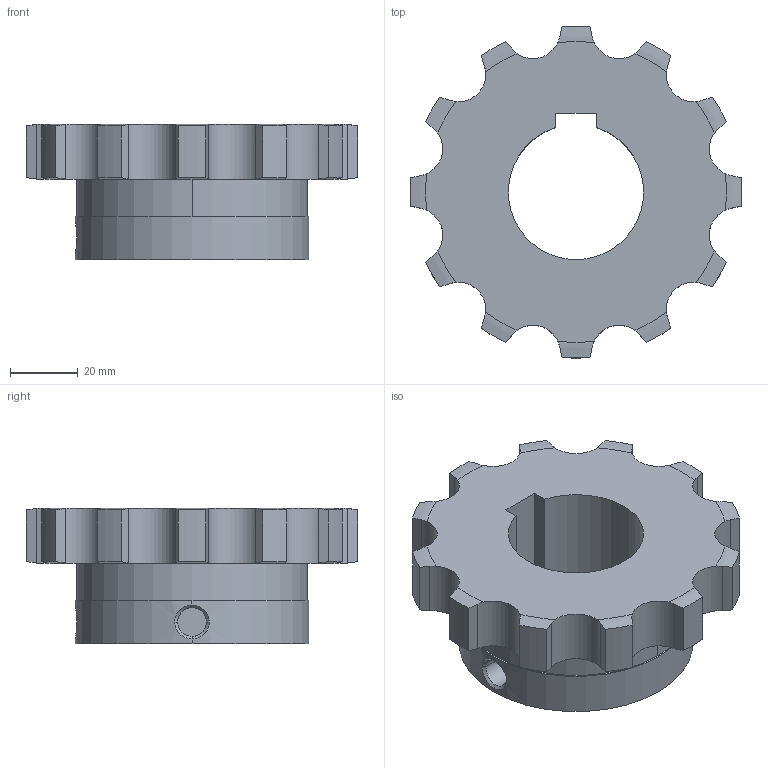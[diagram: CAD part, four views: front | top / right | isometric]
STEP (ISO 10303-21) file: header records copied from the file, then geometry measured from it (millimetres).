
FILE_DESCRIPTION((''),'2;1');
FILE_NAME('510-501-4012_PRT','2021-02-13T',('Brieden'),('Brieden'),'PRO/ENGINEER BY PARAMETRIC TECHNOLOGY CORPORATION, 2010160','PRO/ENGINEER BY PARAMETRIC TECHNOLOGY CORPORATION, 2010160','');
FILE_SCHEMA(('AUTOMOTIVE_DESIGN { 1 0 10303 214 1 1 1 1 }'));
Length unit declared in the file: millimetre
Products named in the file (1): 510-501-4012_PRT
Bounding box: 98.1 x 98.1 x 40 mm (x, y, z)
Volume: 137748.2 mm3; surface area: 27534 mm2
Topology: 1 solids, 1 shells, 95 faces, 267 edges, 176 vertices
Faces by surface type: cylinder 57, torus 24, plane 8, bspline 6
Entity records: 4772 total; most frequent: CARTESIAN_POINT 1589, ORIENTED_EDGE 534, DIRECTION 423, PRESENTATION_STYLE_ASSIGNMENT 268, STYLED_ITEM 268, CURVE_STYLE 267, EDGE_CURVE 267, VERTEX_POINT 176
